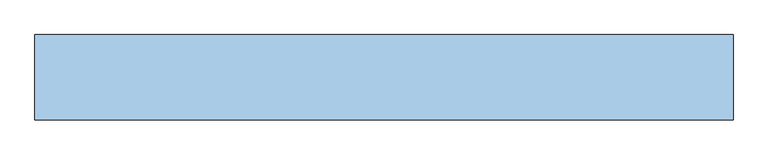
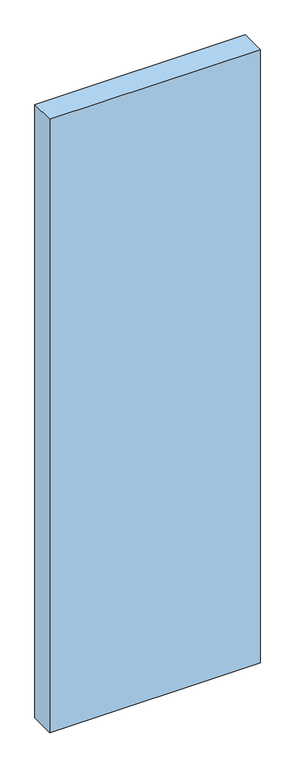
"""IFC4 building model written with IfcOpenShell, lengths in millimetres: window geometry, Dr_Проем-Четверти_об модель : ОК."""

from ifc_helpers import new_model, si_unit, frame, origin, place, context, project, spatial, polyline, outline, extrude, source, transform, mapped, element, save


def window_0148e80c(model_context):
    return source(origin(), model_context, "Body", "SweptSolid", [
        extrude(outline(polyline([(955.0, -100.0), (-685.0, -100.0), (-685.0, 100.0), (955.0, 100.0), (955.0, -100.0)])), frame((0.0, 0.0, -70.0), z_axis=(0.0, 0.0, 1.0), x_axis=(1.0, 0.0, 0.0)), (0.0, 0.0, 1.0), 5060.0),
    ])


if __name__ == "__main__":
    model = new_model("IFC4")
    model_context = context("Model", 3, world=origin())
    ifc_project = project(units=[si_unit("LENGTHUNIT", "METRE", prefix="MILLI")], contexts=[model_context])
    site = spatial("IfcSite", under=ifc_project)
    building = spatial("IfcBuilding", under=site)
    placement = place(None, origin())
    window_shape = window_0148e80c(model_context)
    element("IfcWindow", 1, ObjectType="Dr_Проем-Четверти_об модель : ОК", at=placement, inside=building, context=model_context, shape_type="MappedRepresentation", body=[
        mapped(window_shape, transform((0.0, 0.0, 0.0), x_axis=(1.0, 0.0, 0.0), y_axis=(0.0, 1.0, 0.0), z_axis=(0.0, 0.0, 1.0))),
    ])
    save(model, "model.ifc")
